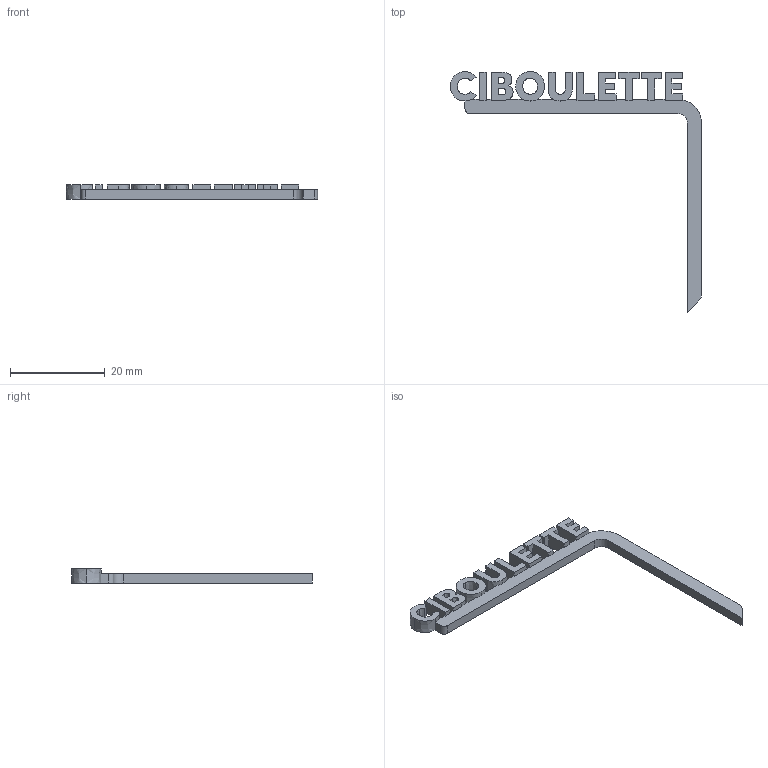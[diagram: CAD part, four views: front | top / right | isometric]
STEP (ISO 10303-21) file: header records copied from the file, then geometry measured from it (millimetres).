
FILE_DESCRIPTION(('STEP AP214'),'1');
FILE_NAME('Ciboulette.stp','2025-04-24T13:23:21',(' '),(' '),'Spatial InterOp 3D',' ',' ');
FILE_SCHEMA(('AUTOMOTIVE_DESIGN { 1 0 10303 214 1 1 1 1 }'));
Length unit declared in the file: millimetre
Products named in the file (1): Ciboulette
Bounding box: 53.07 x 50.88 x 3 mm (x, y, z)
Volume: 1002.6 mm3; surface area: 1839.2 mm2
Topology: 1 solids, 1 shells, 126 faces, 372 edges, 248 vertices
Faces by surface type: plane 94, extrusion 28, cylinder 4
Entity records: 5474 total; most frequent: CARTESIAN_POINT 1169, ORIENTED_EDGE 744, DIRECTION 543, EDGE_CURVE 372, VECTOR 329, LINE 301, VERTEX_POINT 248, EDGE_LOOP 132
